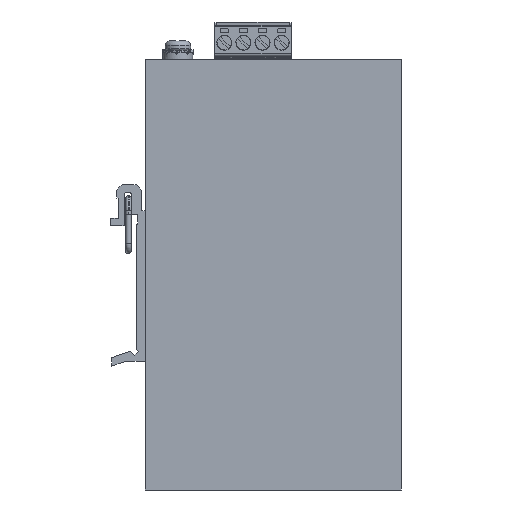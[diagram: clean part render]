
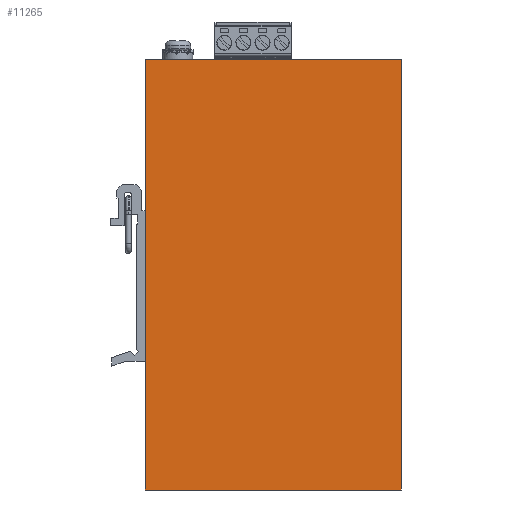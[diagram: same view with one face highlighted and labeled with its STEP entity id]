
A CAD part, left-side view. The second image highlights one B-rep face of the part: STEP entity #11265.
In plain terms, the highlighted planar face has unit normal (-1, 0, 0).
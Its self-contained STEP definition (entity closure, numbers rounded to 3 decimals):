
#1633=CARTESIAN_POINT('',(-0.,68.,114.5));
#1634=VERTEX_POINT('',#1633);
#1635=CARTESIAN_POINT('',(0.,0.,114.5));
#1636=VERTEX_POINT('',#1635);
#1637=CARTESIAN_POINT('',(-0.,68.,114.5));
#1638=DIRECTION('',(-0.,-1.,0.));
#1639=VECTOR('',#1638,68.);
#1640=LINE('',#1637,#1639);
#1641=EDGE_CURVE('',#1634,#1636,#1640,.T.);
#6283=CARTESIAN_POINT('',(0.,0.,0.));
#6284=VERTEX_POINT('',#6283);
#6291=CARTESIAN_POINT('',(-0.,68.,0.));
#6292=VERTEX_POINT('',#6291);
#6293=CARTESIAN_POINT('',(-0.,68.,0.));
#6294=DIRECTION('',(-0.,-1.,0.));
#6295=VECTOR('',#6294,68.);
#6296=LINE('',#6293,#6295);
#6297=EDGE_CURVE('',#6292,#6284,#6296,.T.);
#7490=CARTESIAN_POINT('',(0.,0.,0.));
#7491=DIRECTION('',(0.,0.,1.));
#7492=VECTOR('',#7491,114.5);
#7493=LINE('',#7490,#7492);
#7494=EDGE_CURVE('',#6284,#1636,#7493,.T.);
#11225=CARTESIAN_POINT('',(-0.,68.,0.));
#11226=DIRECTION('',(0.,0.,1.));
#11227=VECTOR('',#11226,114.5);
#11228=LINE('',#11225,#11227);
#11229=EDGE_CURVE('',#6292,#1634,#11228,.T.);
#11254=CARTESIAN_POINT('',(-0.,68.002,0.));
#11255=DIRECTION('',(1.,-0.,-0.));
#11256=DIRECTION('',(-0.,-1.,0.));
#11257=AXIS2_PLACEMENT_3D('',#11254,#11255,#11256);
#11258=PLANE('',#11257);
#11259=ORIENTED_EDGE('',*,*,#1641,.F.);
#11260=ORIENTED_EDGE('',*,*,#11229,.F.);
#11261=ORIENTED_EDGE('',*,*,#6297,.T.);
#11262=ORIENTED_EDGE('',*,*,#7494,.T.);
#11263=EDGE_LOOP('',(#11259,#11260,#11261,#11262));
#11264=FACE_BOUND('',#11263,.T.);
#11265=ADVANCED_FACE('',(#11264),#11258,.F.);
